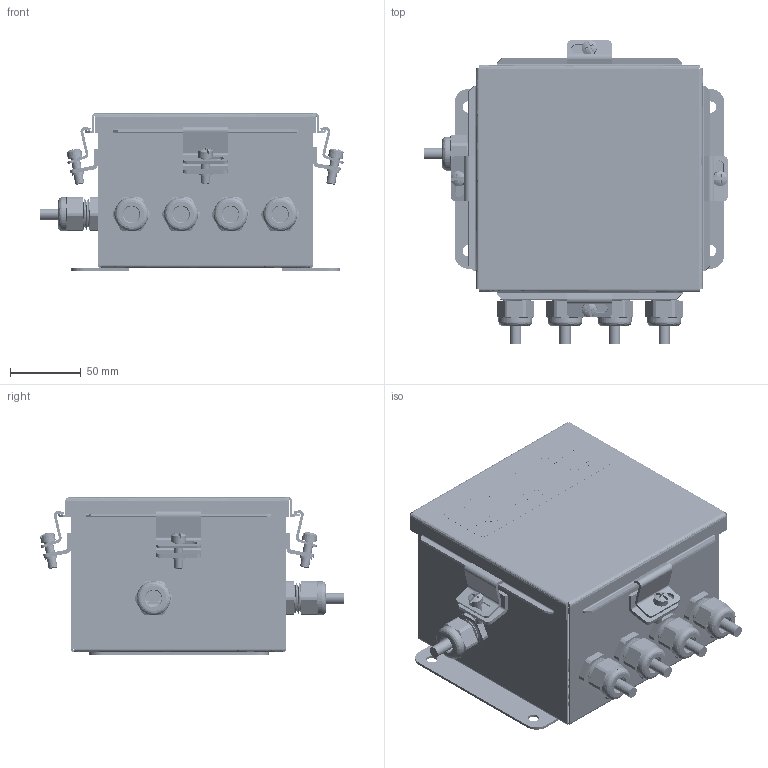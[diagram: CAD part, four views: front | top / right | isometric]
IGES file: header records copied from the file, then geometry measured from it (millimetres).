
Start section: SolidWorks IGES file using analytic representation for surfaces
Global section: file name: C:\0_Work\SolidWorks\HI 6020 Series\HI6020JB-PS2.IGS; native system: SolidWorks 2020; preprocessor: SolidWorks 2020; author: vach01; date: 210610.131007; units: inch
Bounding box: 214.68 x 214.89 x 111.59 mm (x, y, z)
Surface area: 444967.4 mm2 (no closed solid volume)
Topology: 0 solids, 0 shells, 15334 faces, 140862 edges, 140734 vertices
Faces by surface type: bspline 12138, revolution 3196
